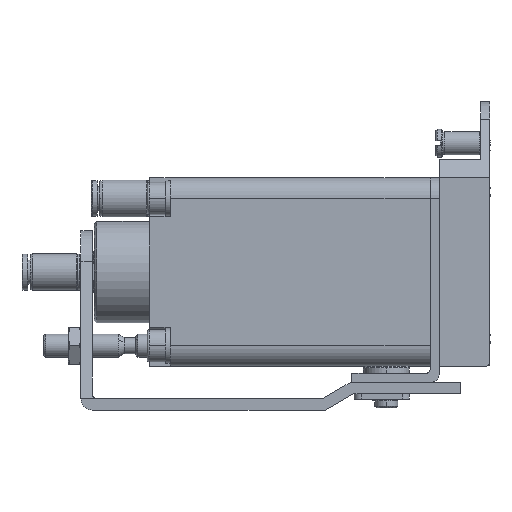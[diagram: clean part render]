
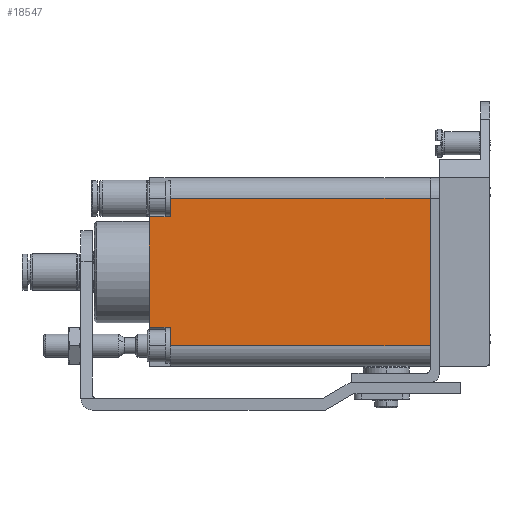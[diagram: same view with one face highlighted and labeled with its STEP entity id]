
A CAD part, left-side view. The second image highlights one B-rep face of the part: STEP entity #18547.
In plain terms, the highlighted planar face has unit normal (-1, 0, 0).
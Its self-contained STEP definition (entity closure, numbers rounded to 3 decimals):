
#578 = LINE ( 'NONE', #6266, #20796 ) ;
#1272 = VERTEX_POINT ( 'NONE', #28826 ) ;
#1479 = VECTOR ( 'NONE', #15968, 1000. ) ;
#2285 = LINE ( 'NONE', #13426, #1479 ) ;
#2940 = ORIENTED_EDGE ( 'NONE', *, *, #10945, .T. ) ;
#3179 = EDGE_LOOP ( 'NONE', ( #2940, #7484, #30430, #15122, #4830, #27847, #18711, #5199 ) ) ;
#3273 = CARTESIAN_POINT ( 'NONE',  ( -16.5, 55.75, -16. ) ) ;
#3547 = LINE ( 'NONE', #28960, #15438 ) ;
#4099 = DIRECTION ( 'NONE',  ( 0., -1., 0. ) ) ;
#4344 = EDGE_CURVE ( 'NONE', #20207, #20308, #18750, .T. ) ;
#4401 = EDGE_CURVE ( 'NONE', #20308, #23818, #17980, .T. ) ;
#4830 = ORIENTED_EDGE ( 'NONE', *, *, #12981, .T. ) ;
#5199 = ORIENTED_EDGE ( 'NONE', *, *, #25498, .T. ) ;
#5626 = VERTEX_POINT ( 'NONE', #8279 ) ;
#5810 = PLANE ( 'NONE',  #27468 ) ;
#6022 = DIRECTION ( 'NONE',  ( -1., 0., 0. ) ) ;
#6266 = CARTESIAN_POINT ( 'NONE',  ( -16.5, 56.5, 0. ) ) ;
#6832 = CARTESIAN_POINT ( 'NONE',  ( -16.5, 55.75, -12. ) ) ;
#7261 = FACE_OUTER_BOUND ( 'NONE', #3179, .T. ) ;
#7484 = ORIENTED_EDGE ( 'NONE', *, *, #14622, .T. ) ;
#7969 = VECTOR ( 'NONE', #9379, 1000. ) ;
#8038 = LINE ( 'NONE', #3273, #13991 ) ;
#8279 = CARTESIAN_POINT ( 'NONE',  ( -16.5, 0., -16. ) ) ;
#8644 = CARTESIAN_POINT ( 'NONE',  ( -16.5, 56.5, -16. ) ) ;
#8696 = CARTESIAN_POINT ( 'NONE',  ( -16.5, 56.5, 16. ) ) ;
#8864 = CARTESIAN_POINT ( 'NONE',  ( -16.5, 61., 0. ) ) ;
#9379 = DIRECTION ( 'NONE',  ( 0., -1., 0. ) ) ;
#10789 = DIRECTION ( 'NONE',  ( 0., -1., 0. ) ) ;
#10945 = EDGE_CURVE ( 'NONE', #1272, #30078, #3547, .T. ) ;
#12049 = VECTOR ( 'NONE', #19017, 1000. ) ;
#12981 = EDGE_CURVE ( 'NONE', #20207, #22096, #15504, .T. ) ;
#13426 = CARTESIAN_POINT ( 'NONE',  ( -16.5, 56.5, 0. ) ) ;
#13991 = VECTOR ( 'NONE', #10789, 1000. ) ;
#14292 = CARTESIAN_POINT ( 'NONE',  ( -16.5, 58.75, 12. ) ) ;
#14622 = EDGE_CURVE ( 'NONE', #30078, #23818, #2285, .T. ) ;
#15122 = ORIENTED_EDGE ( 'NONE', *, *, #4344, .F. ) ;
#15438 = VECTOR ( 'NONE', #31495, 1000. ) ;
#15504 = LINE ( 'NONE', #6832, #7969 ) ;
#15968 = DIRECTION ( 'NONE',  ( 0., 0., -1. ) ) ;
#16608 = EDGE_CURVE ( 'NONE', #22096, #25207, #578, .T. ) ;
#17171 = CARTESIAN_POINT ( 'NONE',  ( -16.5, 56.5, 12. ) ) ;
#17980 = LINE ( 'NONE', #14292, #30542 ) ;
#18225 = CARTESIAN_POINT ( 'NONE',  ( -16.5, 61., 12. ) ) ;
#18351 = CARTESIAN_POINT ( 'NONE',  ( -16.5, 0., 0. ) ) ;
#18531 = EDGE_CURVE ( 'NONE', #25207, #5626, #8038, .T. ) ;
#18547 = ADVANCED_FACE ( 'NONE', ( #7261 ), #5810, .T. ) ;
#18711 = ORIENTED_EDGE ( 'NONE', *, *, #18531, .T. ) ;
#18750 = LINE ( 'NONE', #8864, #12049 ) ;
#19017 = DIRECTION ( 'NONE',  ( 0., 0., 1. ) ) ;
#20207 = VERTEX_POINT ( 'NONE', #25460 ) ;
#20308 = VERTEX_POINT ( 'NONE', #18225 ) ;
#20716 = CARTESIAN_POINT ( 'NONE',  ( -16.5, 56.5, -12. ) ) ;
#20796 = VECTOR ( 'NONE', #26416, 1000. ) ;
#21169 = CARTESIAN_POINT ( 'NONE',  ( -16.5, 49.45, -19.2 ) ) ;
#22096 = VERTEX_POINT ( 'NONE', #20716 ) ;
#22465 = VECTOR ( 'NONE', #28432, 1000. ) ;
#23683 = DIRECTION ( 'NONE',  ( 0., 0., 1. ) ) ;
#23818 = VERTEX_POINT ( 'NONE', #17171 ) ;
#25207 = VERTEX_POINT ( 'NONE', #8644 ) ;
#25460 = CARTESIAN_POINT ( 'NONE',  ( -16.5, 61., -12. ) ) ;
#25498 = EDGE_CURVE ( 'NONE', #5626, #1272, #29138, .T. ) ;
#26416 = DIRECTION ( 'NONE',  ( 0., 0., -1. ) ) ;
#27468 = AXIS2_PLACEMENT_3D ( 'NONE', #21169, #6022, #23683 ) ;
#27847 = ORIENTED_EDGE ( 'NONE', *, *, #16608, .T. ) ;
#28432 = DIRECTION ( 'NONE',  ( 0., 0., 1. ) ) ;
#28826 = CARTESIAN_POINT ( 'NONE',  ( -16.5, 0., 16. ) ) ;
#28960 = CARTESIAN_POINT ( 'NONE',  ( -16.5, 55.75, 16. ) ) ;
#29138 = LINE ( 'NONE', #18351, #22465 ) ;
#30078 = VERTEX_POINT ( 'NONE', #8696 ) ;
#30430 = ORIENTED_EDGE ( 'NONE', *, *, #4401, .F. ) ;
#30542 = VECTOR ( 'NONE', #4099, 1000. ) ;
#31495 = DIRECTION ( 'NONE',  ( 0., 1., 0. ) ) ;
